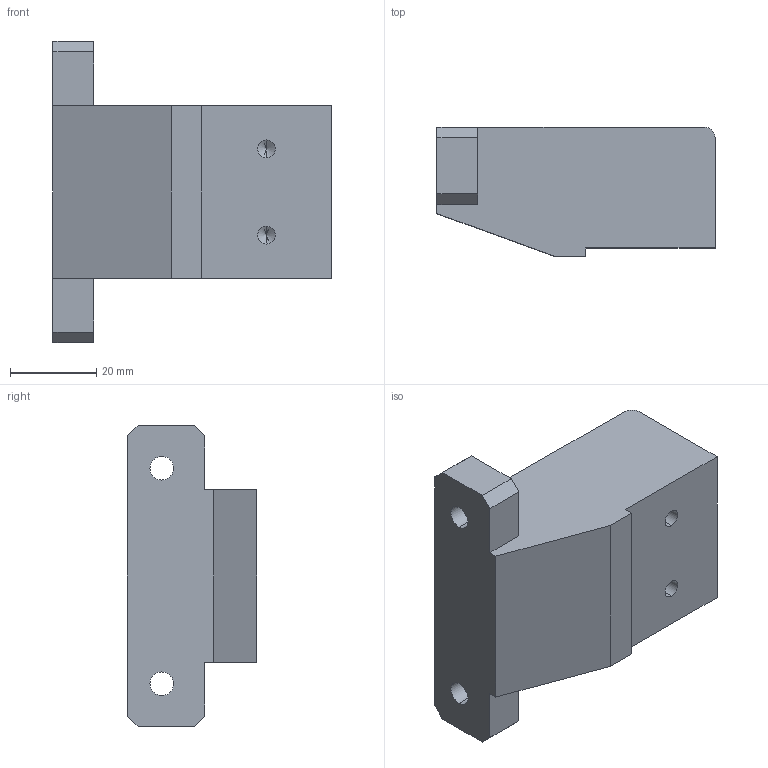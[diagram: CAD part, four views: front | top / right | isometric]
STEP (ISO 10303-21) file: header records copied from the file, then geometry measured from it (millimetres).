
FILE_DESCRIPTION (( 'STEP AP214' ), '1' );
FILE_NAME ('GZ27.03_V1固定座.STEP', '2021-04-10T10:05:35', ( '微软中国' ), ( 'Microsoft' ), 'SwSTEP 2.0', 'SolidWorks 2017', '' );
FILE_SCHEMA (( 'AUTOMOTIVE_DESIGN' ));
Length unit declared in the file: millimetre
Products named in the file (1): GZ27.03_V1嘐隅釱
Bounding box: 64.5 x 30 x 70 mm (x, y, z)
Volume: 57032.3 mm3; surface area: 13897.8 mm2
Topology: 1 solids, 1 shells, 50 faces, 133 edges, 83 vertices
Faces by surface type: plane 26, cylinder 18, cone 6
Entity records: 1615 total; most frequent: DIRECTION 265, CARTESIAN_POINT 261, ORIENTED_EDGE 254, EDGE_CURVE 127, VECTOR 91, LINE 91, AXIS2_PLACEMENT_3D 87, VERTEX_POINT 83
